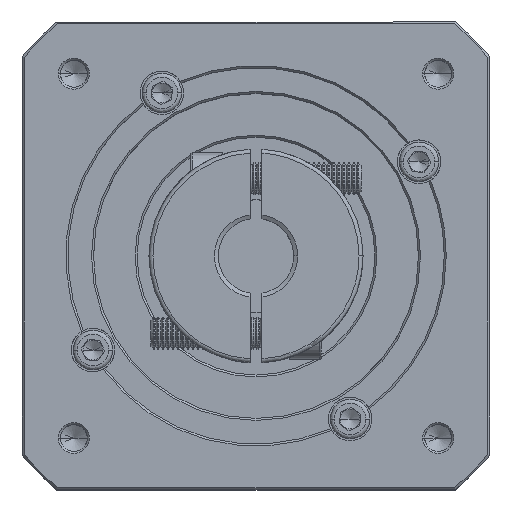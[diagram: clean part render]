
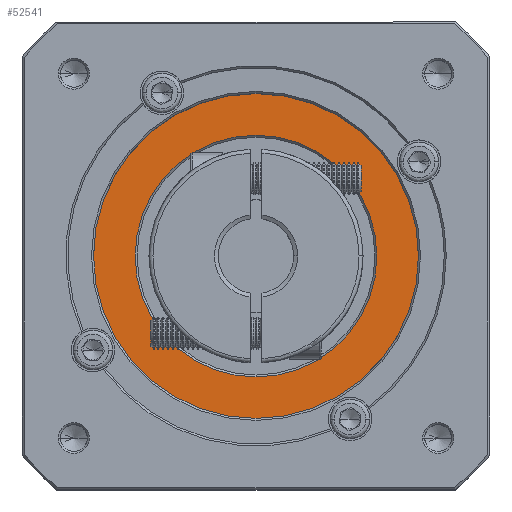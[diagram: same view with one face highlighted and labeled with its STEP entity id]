
A CAD part, top view. The second image highlights one B-rep face of the part: STEP entity #52541.
In plain terms, the highlighted planar face has unit normal (0, 0, 1).
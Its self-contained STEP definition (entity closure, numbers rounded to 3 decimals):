
#7064 = DIRECTION ( 'NONE',  ( 0., 0., 1. ) ) ;
#12802 = EDGE_LOOP ( 'NONE', ( #111488, #92489 ) ) ;
#16984 = ORIENTED_EDGE ( 'NONE', *, *, #28355, .T. ) ;
#17928 = EDGE_CURVE ( 'NONE', #120546, #36180, #19670, .T. ) ;
#19670 = CIRCLE ( 'NONE', #58696, 41. ) ;
#20002 = DIRECTION ( 'NONE',  ( 0., -1., 0. ) ) ;
#20098 = VERTEX_POINT ( 'NONE', #52200 ) ;
#21811 = CIRCLE ( 'NONE', #24774, 30.5 ) ;
#22321 = CARTESIAN_POINT ( 'NONE',  ( 45.534, 21.637, -34.026 ) ) ;
#22414 = CARTESIAN_POINT ( 'NONE',  ( 86.534, 52.137, -34.026 ) ) ;
#24774 = AXIS2_PLACEMENT_3D ( 'NONE', #131741, #121375, #90294 ) ;
#28355 = EDGE_CURVE ( 'NONE', #134894, #20098, #50162, .T. ) ;
#33945 = AXIS2_PLACEMENT_3D ( 'NONE', #82237, #7064, #71494 ) ;
#36180 = VERTEX_POINT ( 'NONE', #22414 ) ;
#48981 = PLANE ( 'NONE',  #33945 ) ;
#50162 = CIRCLE ( 'NONE', #102054, 30.5 ) ;
#52200 = CARTESIAN_POINT ( 'NONE',  ( 45.534, 82.637, -34.026 ) ) ;
#52541 = ADVANCED_FACE ( 'NONE', ( #83124, #105021 ), #48981, .T. ) ;
#58696 = AXIS2_PLACEMENT_3D ( 'NONE', #103228, #91957, #59656 ) ;
#59656 = DIRECTION ( 'NONE',  ( 1., 0., 0. ) ) ;
#67164 = CARTESIAN_POINT ( 'NONE',  ( 45.534, 52.137, -34.026 ) ) ;
#71494 = DIRECTION ( 'NONE',  ( 1., 0., 0. ) ) ;
#78415 = EDGE_LOOP ( 'NONE', ( #16984, #100146 ) ) ;
#79862 = CIRCLE ( 'NONE', #114070, 41. ) ;
#82237 = CARTESIAN_POINT ( 'NONE',  ( 45.534, 52.137, -34.026 ) ) ;
#82308 = EDGE_CURVE ( 'NONE', #20098, #134894, #21811, .T. ) ;
#83124 = FACE_OUTER_BOUND ( 'NONE', #12802, .T. ) ;
#90294 = DIRECTION ( 'NONE',  ( 0., -1., 0. ) ) ;
#91957 = DIRECTION ( 'NONE',  ( 0., 0., 1. ) ) ;
#92489 = ORIENTED_EDGE ( 'NONE', *, *, #17928, .T. ) ;
#100146 = ORIENTED_EDGE ( 'NONE', *, *, #82308, .T. ) ;
#102054 = AXIS2_PLACEMENT_3D ( 'NONE', #137961, #105070, #20002 ) ;
#103228 = CARTESIAN_POINT ( 'NONE',  ( 45.534, 52.137, -34.026 ) ) ;
#105021 = FACE_BOUND ( 'NONE', #78415, .T. ) ;
#105070 = DIRECTION ( 'NONE',  ( 0., 0., -1. ) ) ;
#106708 = EDGE_CURVE ( 'NONE', #36180, #120546, #79862, .T. ) ;
#110335 = DIRECTION ( 'NONE',  ( 1., 0., 0. ) ) ;
#111488 = ORIENTED_EDGE ( 'NONE', *, *, #106708, .T. ) ;
#114070 = AXIS2_PLACEMENT_3D ( 'NONE', #67164, #131475, #110335 ) ;
#120546 = VERTEX_POINT ( 'NONE', #120874 ) ;
#120874 = CARTESIAN_POINT ( 'NONE',  ( 4.534, 52.137, -34.026 ) ) ;
#121375 = DIRECTION ( 'NONE',  ( 0., 0., -1. ) ) ;
#131475 = DIRECTION ( 'NONE',  ( 0., 0., 1. ) ) ;
#131741 = CARTESIAN_POINT ( 'NONE',  ( 45.534, 52.137, -34.026 ) ) ;
#134894 = VERTEX_POINT ( 'NONE', #22321 ) ;
#137961 = CARTESIAN_POINT ( 'NONE',  ( 45.534, 52.137, -34.026 ) ) ;
